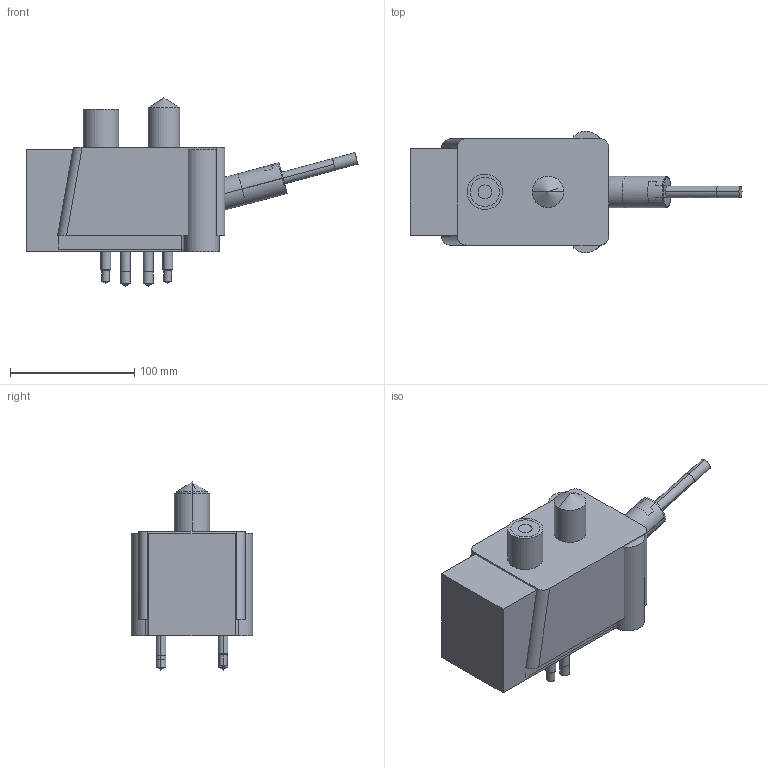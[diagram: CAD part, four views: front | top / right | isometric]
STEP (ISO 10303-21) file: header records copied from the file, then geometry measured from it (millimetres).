
FILE_DESCRIPTION((' '),'2;1');
FILE_NAME( 'EZ-15-P.stp', '2023-11-29T14:29:42', (' '), ('--- Datakit www.datakit.com---'), ' Datakit CrossCadWare V2020.4 Oct 21 2020', 'Export from SolidLink (Hexagon Production Software)', ' ');
FILE_SCHEMA(('AP242_MANAGED_MODEL_BASED_3D_ENGINEERING_MIM_LF { 1 0 10303 442 1 1 4 }'));
Length unit declared in the file: millimetre
Products named in the file (121): Workplanes; 1700579222; 1679431241; 1700502375; 1700502481; 1679422134; 1679422135; 1679422136; 1679422137; 1679422138; 1679422157; 1679422164; 1679422165; 1679422166; 1679422167; 1700836825; 1700836927; 1701269239; 1701286448; 1701286449; 1701286450; 1701286451; 1701286452; 1701286453; 1701286454; 1701286455; 1701286456; 1701286457; 1701286458; 1701286459; 1701286460; 1701286461; 1701286462; 1701286463; 1701286464; 1701286465; 1701286466; 1701286467; 1701286468; 1701286469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
Bounding box: 267.67 x 97.7 x 151.64 mm (x, y, z)
Volume: 2507199.4 mm3; surface area: 227193.8 mm2
Topology: 16 solids, 17 shells, 369 faces, 1054 edges, 931 vertices
Faces by surface type: plane 142, cylinder 125, cone 86, torus 6, sphere 4, revolution 4, bspline 2
Entity records: 16569 total; most frequent: CARTESIAN_POINT 5325, DIRECTION 2298, ORIENTED_EDGE 1660, AXIS2_PLACEMENT_3D 909, EDGE_CURVE 836, VERTEX_POINT 531, VECTOR 476, LINE 476
